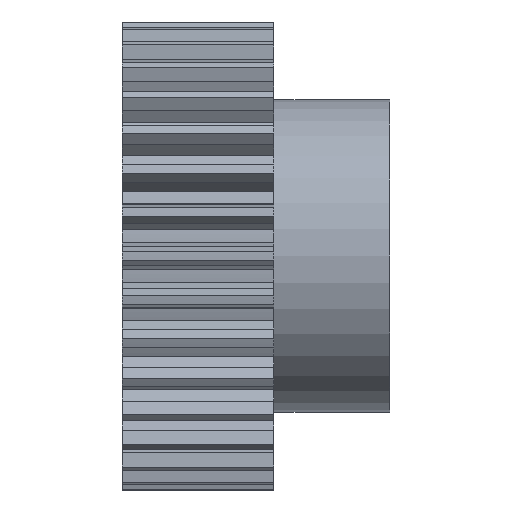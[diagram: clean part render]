
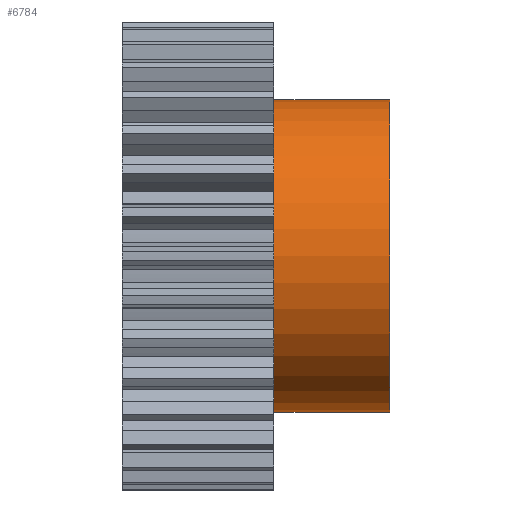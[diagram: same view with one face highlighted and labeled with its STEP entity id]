
A CAD part, front view. The second image highlights one B-rep face of the part: STEP entity #6784.
In plain terms, the highlighted cylindrical face has radius 17.5 mm (diameter 35 mm), a partial arc.
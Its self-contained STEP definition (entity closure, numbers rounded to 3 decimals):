
#493 = EDGE_CURVE ( 'NONE', #1138, #1134, #2547, .T. ) ;
#501 = EDGE_CURVE ( 'NONE', #1073, #1143, #2559, .T. ) ;
#1072 = EDGE_CURVE ( 'NONE', #1143, #1138, #3223, .T. ) ;
#1073 = VERTEX_POINT ( 'NONE', #3225 ) ;
#1074 = EDGE_CURVE ( 'NONE', #1073, #1134, #3236, .T. ) ;
#1134 = VERTEX_POINT ( 'NONE', #3364 ) ;
#1138 = VERTEX_POINT ( 'NONE', #3313 ) ;
#1143 = VERTEX_POINT ( 'NONE', #3356 ) ;
#2538 = CARTESIAN_POINT ( 'NONE',  ( 21.5, 0., 0. ) ) ;
#2543 = DIRECTION ( 'NONE',  ( 0., 0., 1. ) ) ;
#2544 = DIRECTION ( 'NONE',  ( 1., 0., 0. ) ) ;
#2545 = CARTESIAN_POINT ( 'NONE',  ( 8.5, 0., 0. ) ) ;
#2546 = AXIS2_PLACEMENT_3D ( 'NONE', #2545, #2544, #2543 ) ;
#2547 = CIRCLE ( 'NONE', #2546, 17.5 ) ;
#2559 = CIRCLE ( 'NONE', #2591, 17.5 ) ;
#2589 = DIRECTION ( 'NONE',  ( 0., 0., 1. ) ) ;
#2590 = DIRECTION ( 'NONE',  ( -1., 0., 0. ) ) ;
#2591 = AXIS2_PLACEMENT_3D ( 'NONE', #2538, #2590, #2589 ) ;
#3216 = DIRECTION ( 'NONE',  ( -1., 0., 0. ) ) ;
#3217 = VECTOR ( 'NONE', #3216, 1000. ) ;
#3220 = DIRECTION ( 'NONE',  ( -1., 0., 0. ) ) ;
#3221 = VECTOR ( 'NONE', #3220, 1000. ) ;
#3222 = CARTESIAN_POINT ( 'NONE',  ( 8.5, 0., 17.5 ) ) ;
#3223 = LINE ( 'NONE', #3222, #3221 ) ;
#3225 = CARTESIAN_POINT ( 'NONE',  ( 21.5, 0., -17.5 ) ) ;
#3235 = CARTESIAN_POINT ( 'NONE',  ( 8.5, 0., -17.5 ) ) ;
#3236 = LINE ( 'NONE', #3235, #3217 ) ;
#3313 = CARTESIAN_POINT ( 'NONE',  ( 8.5, 0., 17.5 ) ) ;
#3356 = CARTESIAN_POINT ( 'NONE',  ( 21.5, 0., 17.5 ) ) ;
#3364 = CARTESIAN_POINT ( 'NONE',  ( 8.5, 0., -17.5 ) ) ;
#5767 = DIRECTION ( 'NONE',  ( 0., 0., 1. ) ) ;
#5774 = DIRECTION ( 'NONE',  ( -1., 0., 0. ) ) ;
#5775 = CYLINDRICAL_SURFACE ( 'NONE', #5789, 17.5 ) ;
#5780 = CARTESIAN_POINT ( 'NONE',  ( 8.5, 0., 0. ) ) ;
#5788 = FACE_OUTER_BOUND ( 'NONE', #6873, .T. ) ;
#5789 = AXIS2_PLACEMENT_3D ( 'NONE', #5780, #5774, #5767 ) ;
#6779 = ORIENTED_EDGE ( 'NONE', *, *, #1072, .T. ) ;
#6780 = ORIENTED_EDGE ( 'NONE', *, *, #501, .T. ) ;
#6784 = ADVANCED_FACE ( 'NONE', ( #5788 ), #5775, .T. ) ;
#6858 = ORIENTED_EDGE ( 'NONE', *, *, #1074, .F. ) ;
#6873 = EDGE_LOOP ( 'NONE', ( #6858, #6780, #6779, #6896 ) ) ;
#6896 = ORIENTED_EDGE ( 'NONE', *, *, #493, .T. ) ;
